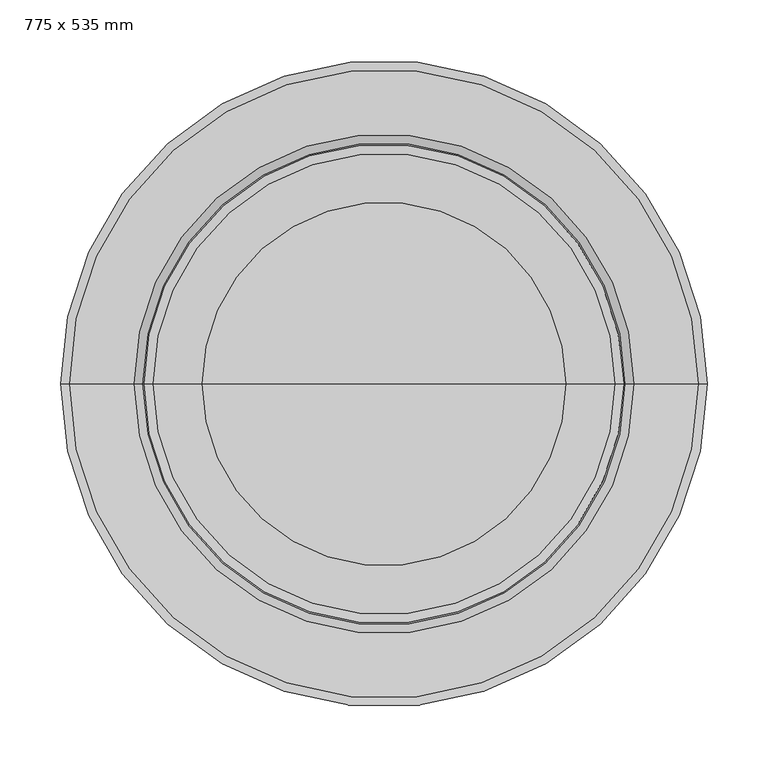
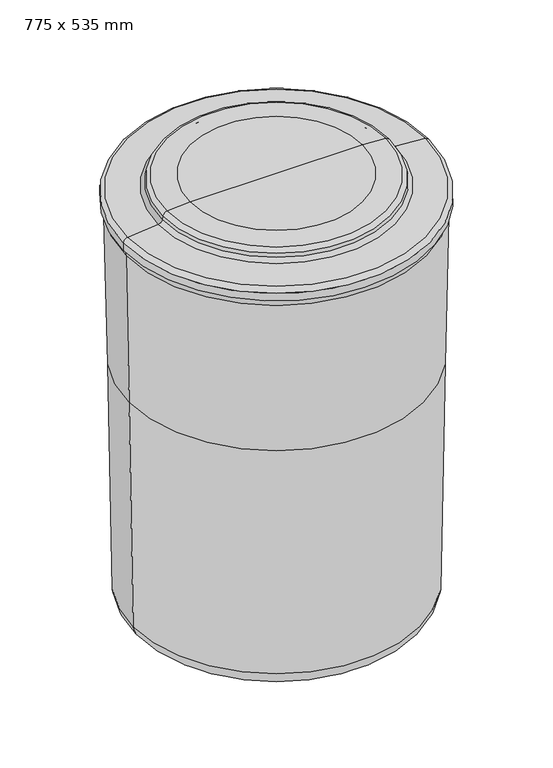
"""IFC4 building model written with IfcOpenShell, lengths in millimetres: proxy geometry, BWT_Bac à sel type 1 : 775 x 535 mm."""

from ifc_helpers import new_model, si_unit, point, frame, origin, place, context, project, spatial, polyline, circle_curve, ellipse_curve, trimmed, source, transform, mapped, element, save
from ifc_brep_helpers import plane_surface, cylinder_surface, revolved_surface, advanced_brep


def proxy_775_x_535_mm_d6c69f12(model_context):
    return source(origin(), model_context, "Body", "AdvancedBrep", [
        advanced_brep(
        [(255.9607428, 0.0, 443.7394346), (-255.9607428, 0.0, 443.7394346), (-261.5, 0.0, 715.0), (261.5, 0.0, 715.0), (248.9173957, 0.0, 28.3474108), (-248.9173957, 0.0, 28.3474108), (0.0, 0.0, 0.0), (-221.0, 0.0, 0.0), (221.0, 0.0, 0.0), (149.7953745, 0.0, 775.0), (-149.7953745, 0.0, 775.0), (0.0, 0.0, 775.0), (190.1452336, 0.0, 772.7126502), (-190.1452336, 0.0, 772.7126502), (197.605008, 0.0, 766.1127994), (-197.605008, 0.0, 766.1127994), (198.703396, 0.0, 759.8835314), (-198.703396, 0.0, 759.8835314), (205.8846121, 0.0, 753.3031593), (-205.8846121, 0.0, 753.3031593), (259.1972459, 0.0, 748.6389082), (-259.1972459, 0.0, 748.6389082), (266.5, 0.0, 740.6693506), (-266.5, 0.0, 740.6693506), (266.5, 0.0, 727.0), (-266.5, 0.0, 727.0), (264.0506787, 0.0, 727.0), (-264.0506787, 0.0, 727.0)],
        [
            (0, 1, circle_curve(frame((0.0, 0.0, 443.7394346), z_axis=(0.0, 0.0, 1.0), x_axis=(-1.0, 0.0, 0.0)), 255.9607428)),
            (1, 2),
            (2, 3, circle_curve(frame((0.0, 0.0, 715.0), z_axis=(0.0, 0.0, -1.0), x_axis=(-1.0, 0.0, 0.0)), 261.5)),
            (3, 0),
            (1, 0, circle_curve(frame((0.0, 0.0, 443.7394346), z_axis=(0.0, 0.0, 1.0), x_axis=(-1.0, 0.0, 0.0)), 255.9607428)),
            (3, 2, circle_curve(frame((0.0, 0.0, 715.0), z_axis=(0.0, 0.0, -1.0), x_axis=(-1.0, 0.0, 0.0)), 261.5)),
            (4, 5, circle_curve(frame((0.0, 0.0, 28.3474108), z_axis=(0.0, 0.0, 1.0), x_axis=(-1.0, 0.0, 0.0)), 248.9173957)),
            (5, 1),
            (0, 4),
            (5, 4, circle_curve(frame((0.0, 0.0, 28.3474108), z_axis=(0.0, 0.0, 1.0), x_axis=(-1.0, 0.0, 0.0)), 248.9173957)),
            (6, 7),
            (7, 8, circle_curve(frame((0.0, 0.0, 0.0), z_axis=(0.0, 0.0, -1.0), x_axis=(-1.0, 0.0, 0.0)), 221.0)),
            (8, 6),
            (8, 7, circle_curve(frame((0.0, 0.0, 0.0), z_axis=(0.0, 0.0, -1.0), x_axis=(-1.0, 0.0, 0.0)), 221.0)),
            (9, 10, circle_curve(frame((0.0, 0.0, 775.0), z_axis=(0.0, 0.0, 1.0), x_axis=(-1.0, 0.0, 0.0)), 149.7953745)),
            (10, 11),
            (11, 9),
            (10, 9, circle_curve(frame((0.0, 0.0, 775.0), z_axis=(0.0, 0.0, 1.0), x_axis=(-1.0, 0.0, 0.0)), 149.7953745)),
            (12, 13, circle_curve(frame((0.0, 0.0, 772.7126502), z_axis=(0.0, 0.0, 1.0), x_axis=(-1.0, 0.0, 0.0)), 190.1452336)),
            (13, 10),
            (9, 12),
            (13, 12, circle_curve(frame((0.0, 0.0, 772.7126502), z_axis=(0.0, 0.0, 1.0), x_axis=(-1.0, 0.0, 0.0)), 190.1452336)),
            (14, 15, circle_curve(frame((0.0, 0.0, 766.1127994), z_axis=(0.0, 0.0, 1.0), x_axis=(-1.0, 0.0, 0.0)), 197.605008)),
            (15, 13, circle_curve(frame((-189.726546, 0.0, 764.723614), z_axis=(0.0, 1.0, 0.0), x_axis=(1.0, 0.0, 0.0)), 8.0)),
            (12, 14, circle_curve(frame((189.726546, 0.0, 764.723614), z_axis=(0.0, 1.0, 0.0), x_axis=(-1.0, 0.0, 0.0)), 8.0)),
            (15, 14, circle_curve(frame((0.0, 0.0, 766.1127994), z_axis=(0.0, 0.0, 1.0), x_axis=(-1.0, 0.0, 0.0)), 197.605008)),
            (16, 17, circle_curve(frame((0.0, 0.0, 759.8835314), z_axis=(0.0, 0.0, 1.0), x_axis=(-1.0, 0.0, 0.0)), 198.703396)),
            (17, 15),
            (14, 16),
            (17, 16, circle_curve(frame((0.0, 0.0, 759.8835314), z_axis=(0.0, 0.0, 1.0), x_axis=(-1.0, 0.0, 0.0)), 198.703396)),
            (18, 19, circle_curve(frame((0.0, 0.0, 753.3031593), z_axis=(0.0, 0.0, 1.0), x_axis=(-1.0, 0.0, 0.0)), 205.8846121)),
            (19, 17, circle_curve(frame((-206.581858, 0.0, 761.2727169), z_axis=(0.0, -1.0, 0.0), x_axis=(1.0, 0.0, 0.0)), 8.0)),
            (16, 18, circle_curve(frame((206.581858, 0.0, 761.2727169), z_axis=(0.0, -1.0, 0.0), x_axis=(-1.0, 0.0, 0.0)), 8.0)),
            (19, 18, circle_curve(frame((0.0, 0.0, 753.3031593), z_axis=(0.0, 0.0, 1.0), x_axis=(-1.0, 0.0, 0.0)), 205.8846121)),
            (20, 21, circle_curve(frame((0.0, 0.0, 748.6389082), z_axis=(0.0, 0.0, 1.0), x_axis=(-1.0, 0.0, 0.0)), 259.1972459)),
            (21, 19),
            (18, 20),
            (21, 20, circle_curve(frame((0.0, 0.0, 748.6389082), z_axis=(0.0, 0.0, 1.0), x_axis=(-1.0, 0.0, 0.0)), 259.1972459)),
            (22, 23, circle_curve(frame((0.0, 0.0, 740.6693506), z_axis=(0.0, 0.0, 1.0), x_axis=(-1.0, 0.0, 0.0)), 266.5)),
            (23, 21, circle_curve(frame((-258.5, 0.0, 740.6693506), z_axis=(0.0, 1.0, 0.0), x_axis=(1.0, 0.0, 0.0)), 8.0)),
            (20, 22, circle_curve(frame((258.5, 0.0, 740.6693506), z_axis=(0.0, 1.0, 0.0), x_axis=(-1.0, 0.0, 0.0)), 8.0)),
            (23, 22, circle_curve(frame((0.0, 0.0, 740.6693506), z_axis=(0.0, 0.0, 1.0), x_axis=(-1.0, 0.0, 0.0)), 266.5)),
            (24, 25, circle_curve(frame((0.0, 0.0, 727.0), z_axis=(0.0, 0.0, 1.0), x_axis=(-1.0, 0.0, 0.0)), 266.5)),
            (25, 23),
            (22, 24),
            (25, 24, circle_curve(frame((0.0, 0.0, 727.0), z_axis=(0.0, 0.0, 1.0), x_axis=(-1.0, 0.0, 0.0)), 266.5)),
            (26, 27, circle_curve(frame((0.0, 0.0, 727.0), z_axis=(0.0, 0.0, 1.0), x_axis=(-1.0, 0.0, 0.0)), 264.0506787)),
            (27, 25),
            (24, 26),
            (27, 26, circle_curve(frame((0.0, 0.0, 727.0), z_axis=(0.0, 0.0, 1.0), x_axis=(-1.0, 0.0, 0.0)), 264.0506787)),
            (2, 27),
            (26, 3),
            (7, 5, circle_curve(frame((-219.924297, 0.0, 28.9800425), z_axis=(0.0, 1.0, 0.0), x_axis=(1.0, 0.0, 0.0)), 29.0)),
            (4, 8, circle_curve(frame((219.924297, 0.0, 28.9800425), z_axis=(0.0, 1.0, 0.0), x_axis=(-1.0, 0.0, 0.0)), 29.0)),
        ],
        [
            revolved_surface(polyline([(-261.5, 0.0, 715.0), (-255.9607428, 0.0, 443.7394346)]), (0.0, 0.0, 2199.3150031), (0.0, 0.0, -1.0)),
            revolved_surface(polyline([(-255.9607428, 0.0, 443.7394346), (-248.9173957, 0.0, 28.3474108)]), (0.0, 0.0, 2199.3150031), (0.0, 0.0, -1.0)),
            plane_surface(frame((0.0, 0.0, 0.0), z_axis=(0.0, 0.0, -1.0), x_axis=(-1.0, 0.0, 0.0))),
            plane_surface(frame((0.0, 0.0, 775.0), z_axis=(0.0, 0.0, 1.0), x_axis=(-1.0, 0.0, 0.0))),
            revolved_surface(polyline([(-149.7953745, 0.0, 775.0), (-190.1452336, 0.0, 772.7126502)]), (0.0, 0.0, 2199.3150031), (0.0, 0.0, -1.0)),
            revolved_surface(trimmed(ellipse_curve(frame((-189.726546, 0.0, 764.723614), z_axis=(0.0, -1.0, 0.0), x_axis=(1.0, 0.0, 0.0)), 8.0, 8.0), [point((-190.1452336, 0.0, 772.7126502))], [point((-197.605008, 0.0, 766.1127994))], True, "CARTESIAN"), (0.0, 0.0, 2199.3150031), (0.0, 0.0, -1.0)),
            revolved_surface(polyline([(-197.605008, 0.0, 766.1127994), (-198.703396, 0.0, 759.8835314)]), (0.0, 0.0, 2199.3150031), (0.0, 0.0, -1.0)),
            revolved_surface(trimmed(ellipse_curve(frame((-206.581858, 0.0, 761.2727169), z_axis=(0.0, 1.0, 0.0), x_axis=(1.0, 0.0, 0.0)), 8.0, 8.0), [point((-198.703396, 0.0, 759.8835314))], [point((-205.8846121, 0.0, 753.3031593))], True, "CARTESIAN"), (0.0, 0.0, 2199.3150031), (0.0, 0.0, -1.0)),
            revolved_surface(polyline([(-205.8846121, 0.0, 753.3031593), (-259.1972459, 0.0, 748.6389082)]), (0.0, 0.0, 2199.3150031), (0.0, 0.0, -1.0)),
            revolved_surface(trimmed(ellipse_curve(frame((-258.5, 0.0, 740.6693506), z_axis=(0.0, -1.0, 0.0), x_axis=(1.0, 0.0, 0.0)), 8.0, 8.0), [point((-259.1972459, 0.0, 748.6389082))], [point((-266.5, 0.0, 740.6693506))], True, "CARTESIAN"), (0.0, 0.0, 2199.3150031), (0.0, 0.0, -1.0)),
            cylinder_surface(frame((0.0, 0.0, 2199.3150031), z_axis=(0.0, 0.0, -1.0), x_axis=(-1.0, 0.0, 0.0)), 266.5),
            plane_surface(frame((0.0, 0.0, 727.0), z_axis=(0.0, 0.0, -1.0), x_axis=(-1.0, 0.0, 0.0))),
            revolved_surface(polyline([(-264.0506787, 0.0, 727.0), (-261.5, 0.0, 715.0)]), (0.0, 0.0, 2199.3150031), (0.0, 0.0, -1.0)),
            revolved_surface(trimmed(ellipse_curve(frame((-219.924297, 0.0, 28.9800425), z_axis=(0.0, -1.0, 0.0), x_axis=(1.0, 0.0, 0.0)), 29.0, 29.0), [point((-248.9173957, 0.0, 28.3474108))], [point((-221.0, 0.0, 0.0))], True, "CARTESIAN"), (0.0, 0.0, 2199.3150031), (0.0, 0.0, -1.0)),
        ],
        [
            (0, [[1, 2, 3, 4]]),
            (0, [[5, -4, 6, -2]]),
            (1, [[7, 8, -1, 9]]),
            (1, [[10, -9, -5, -8]]),
            (2, [[11, 12, 13]]),
            (2, [[-13, 14, -11]]),
            (3, [[15, 16, 17]]),
            (3, [[18, -17, -16]]),
            (4, [[19, 20, -15, 21]]),
            (4, [[22, -21, -18, -20]]),
            (5, [[23, 24, -19, 25]]),
            (5, [[26, -25, -22, -24]]),
            (6, [[27, 28, -23, 29]]),
            (6, [[30, -29, -26, -28]]),
            (7, [[31, 32, -27, 33]]),
            (7, [[34, -33, -30, -32]]),
            (8, [[35, 36, -31, 37]]),
            (8, [[38, -37, -34, -36]]),
            (9, [[39, 40, -35, 41]]),
            (9, [[42, -41, -38, -40]]),
            (10, [[43, 44, -39, 45]]),
            (10, [[46, -45, -42, -44]]),
            (11, [[47, 48, -43, 49]]),
            (11, [[50, -49, -46, -48]]),
            (12, [[-3, 51, -47, 52]]),
            (12, [[-6, -52, -50, -51]]),
            (13, [[-12, 53, -7, 54]]),
            (13, [[-14, -54, -10, -53]]),
        ],
    ),
    ])


if __name__ == "__main__":
    model = new_model("IFC4")
    model_context = context("Model", 3, world=origin())
    ifc_project = project(units=[si_unit("LENGTHUNIT", "METRE", prefix="MILLI")], contexts=[model_context])
    site = spatial("IfcSite", under=ifc_project)
    building = spatial("IfcBuilding", under=site)
    placement = place(None, origin())
    proxy_775_x_535_mm_shape = proxy_775_x_535_mm_d6c69f12(model_context)
    element("IfcBuildingElementProxy", 1, Name="BWT_Bac à sel type 1 : 775 x 535 mm", ObjectType="BWT_Bac à sel type 1 : 775 x 535 mm", at=placement, inside=building, context=model_context, shape_type="MappedRepresentation", body=[
        mapped(proxy_775_x_535_mm_shape, transform((0.0, 0.0, 0.0), x_axis=(1.0, 0.0, 0.0), y_axis=(0.0, 1.0, 0.0), z_axis=(0.0, 0.0, 1.0))),
    ])
    save(model, "model.ifc")
